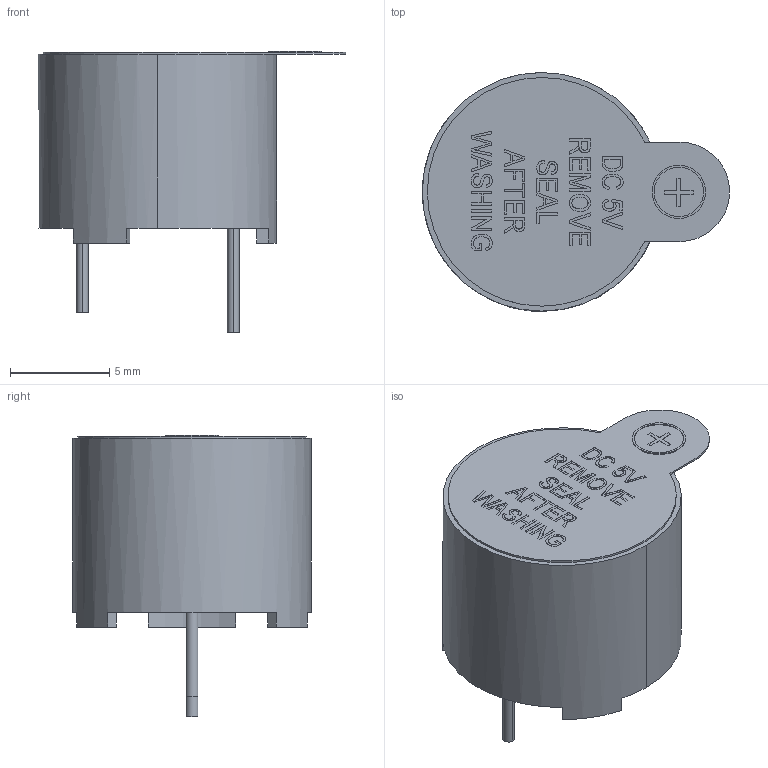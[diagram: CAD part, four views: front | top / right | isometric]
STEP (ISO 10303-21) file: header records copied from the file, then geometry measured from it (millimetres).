
FILE_DESCRIPTION(('STEP AP242 Edition 2','STEP AP242 Edition 2''CAx-IF Rec.Pracs.---Representation and Presentation of Product Manufacturing Information (PMI)---4.0---2014-10-13','STEP AP242 Edition 2''CAx-IF Rec.Pracs.---Representation and Presentation of Product Manufacturing Information (PMI)---4.0---2014-10-13''CAx-IF Rec.Pracs.---3D Tessellated Geometry---0.4---2014-09-14','STEP AP242 Edition 2''CAx-IF Rec.Pracs.---Representation and Presentation of Product Manufacturing Information (PMI)---4.0---2014-10-13''CAx-IF Rec.Pracs.---3D Tessellated Geometry---0.4---2014-09-14''2;1','STEP AP242 Edition 2''CAx-IF Rec.Pracs.---Representation and Presentation of Product Manufacturing Information (PMI)---4.0---2014-10-13''CAx-IF Rec.Pracs.---3D Tessellated Geometry---0.4---2014-09-14''2;1''CAx-IF Rec.Pracs.---User Defined Attributes---1.5---2016-08-15'),'2;1');
FILE_NAME('/vol/tmp/translate-15666627329053344535/buzzer.step','2026-03-08T12:39:35',(''),(''),'ST-DEVELOPER v20','ONSHAPE BY PTC INC, 1.211',' ');
FILE_SCHEMA(('AP242_MANAGED_MODEL_BASED_3D_ENGINEERING_MIM_LF { 1 0 10303 442 3 1 4 }'));
Length unit declared in the file: metre
Products named in the file (1): Part 1
Bounding box: 15.45 x 12 x 14.15 mm (x, y, z)
Volume: 997.6 mm3; surface area: 658.2 mm2
Topology: 1 solids, 2 shells, 408 faces, 1096 edges, 730 vertices
Faces by surface type: plane 298, bspline 67, cylinder 43
Entity records: 17299 total; most frequent: CARTESIAN_POINT 7197, ORIENTED_EDGE 2192, DIRECTION 1695, EDGE_CURVE 1096, LINE 823, VECTOR 823, VERTEX_POINT 730, EDGE_LOOP 446
